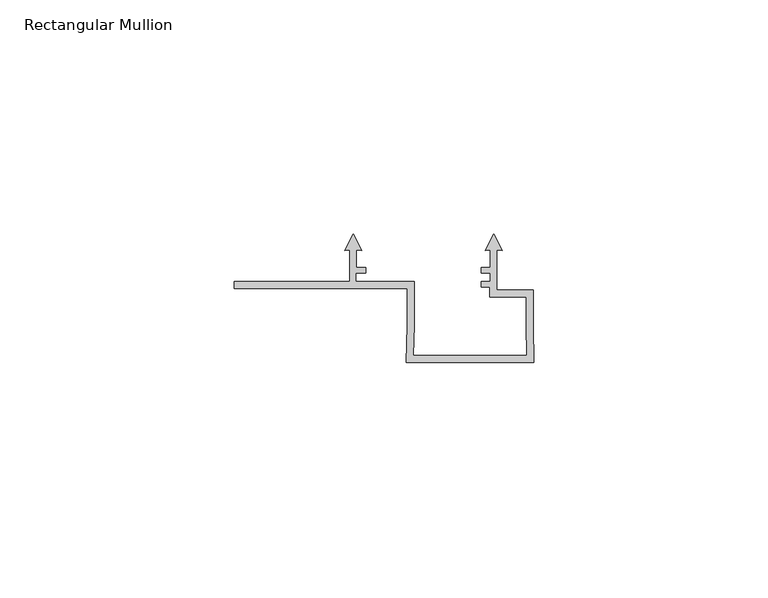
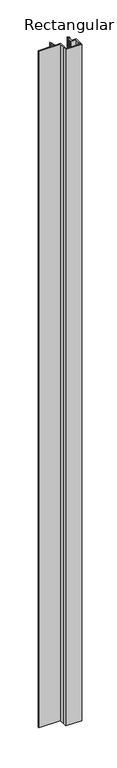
"""IFC4 building model written with IfcOpenShell, lengths in millimetres: member geometry, Rectangular Mullion : Renson_Linarte_LA-B16-01."""

from ifc_helpers import new_model, si_unit, frame, origin, place, context, project, spatial, polyline, outline, extrude, source, transform, mapped, element, save


def rectangular_mullion_5ee05838(model_context):
    return source(origin(), model_context, "Body", "SweptSolid", [
        extrude(outline(polyline([(0.0, -52.6000001), (-27.279476, -52.6000001), (-27.1352165, -44.6039069), (-27.1353052, -36.7004291), (-64.1, -36.7004291), (-64.1, -35.2056679), (-39.3351463, -35.2056679), (-39.3351463, -28.5038207), (-40.4508816, -28.6014348), (-38.635145, -25.0378474), (-36.8194083, -28.6014348), (-37.9351461, -28.5038204), (-37.9351461, -32.1999997), (-35.942882, -32.1999997), (-35.942882, -33.4008281), (-38.0351451, -33.4008281), (-38.0351451, -35.1999997), (-25.6351455, -35.1999997), (-25.6351455, -44.6117002), (-25.7521689, -51.0999998), (-1.5181226, -51.0999998), (-1.6351135, -44.6153631), (-1.6351472, -38.5997951), (-9.4446143, -38.5997951), (-9.4446143, -36.4015214), (-11.3232242, -36.4015214), (-11.3232242, -35.1999954), (-9.344327, -35.1999954), (-9.344327, -33.4004386), (-11.3227094, -33.4004386), (-11.3227094, -32.198351), (-9.3351463, -32.198351), (-9.3351463, -28.5038206), (-10.4508827, -28.6014348), (-8.6351462, -25.0378474), (-6.8194096, -28.6014348), (-7.9351461, -28.5038205), (-7.9351461, -37.0995654), (-0.1443272, -37.0995654), (-0.1443272, -44.5977912), (0.0, -52.6000001)])), frame((0.0, 0.0, -1225.5020157), z_axis=(0.0, 0.0, 1.0), x_axis=(1.0, 0.0, 0.0)), (0.0, 0.0, 1.0), 1225.5020157),
    ])


if __name__ == "__main__":
    model = new_model("IFC4")
    model_context = context("Model", 3, world=origin())
    ifc_project = project(units=[si_unit("LENGTHUNIT", "METRE", prefix="MILLI")], contexts=[model_context])
    site = spatial("IfcSite", under=ifc_project)
    building = spatial("IfcBuilding", under=site)
    placement = place(None, origin())
    rectangular_mullion_shape = rectangular_mullion_5ee05838(model_context)
    element("IfcMember", 1, ObjectType="Rectangular Mullion : Renson_Linarte_LA-B16-01", at=placement, inside=building, context=model_context, shape_type="MappedRepresentation", body=[
        mapped(rectangular_mullion_shape, transform((0.0, 0.0, 0.0), x_axis=(1.0, 0.0, 0.0), y_axis=(0.0, 1.0, 0.0), z_axis=(0.0, 0.0, 1.0))),
    ])
    save(model, "model.ifc")
